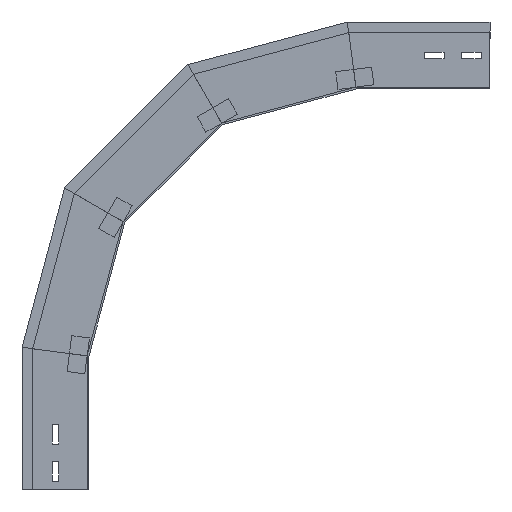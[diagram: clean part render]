
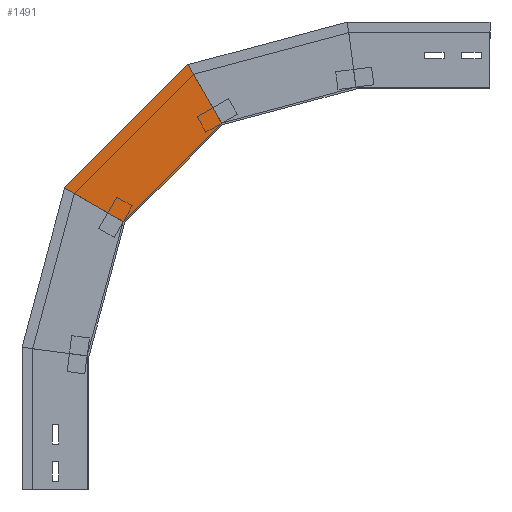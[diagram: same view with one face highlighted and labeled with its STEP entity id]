
A CAD part, left-side view. The second image highlights one B-rep face of the part: STEP entity #1491.
In plain terms, the highlighted planar face has unit normal (-1, 0, 0) as drawn and (1, 0, 0) by its records, which use the part's own axes.
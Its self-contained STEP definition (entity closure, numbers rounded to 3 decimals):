
#38 = CARTESIAN_POINT ( 'NONE',  ( 0., -77.316, 278.242 ) ) ;
#39 = DIRECTION ( 'NONE',  ( 0., -0.5, -0.866 ) ) ;
#52 = DIRECTION ( 'NONE',  ( 0., -0.707, 0.707 ) ) ;
#166 = CARTESIAN_POINT ( 'NONE',  ( 0., 28.618, 337.05 ) ) ;
#177 = FACE_OUTER_BOUND ( 'NONE', #308, .T. ) ;
#184 = CARTESIAN_POINT ( 'NONE',  ( 0., -172.651, 369.6 ) ) ;
#211 = LINE ( 'NONE', #38, #384 ) ;
#270 = EDGE_CURVE ( 'NONE', #1172, #663, #1496, .T. ) ;
#308 = EDGE_LOOP ( 'NONE', ( #788, #894, #601, #967 ) ) ;
#318 = DIRECTION ( 'NONE',  ( 0., -0.866, -0.5 ) ) ;
#330 = DIRECTION ( 'NONE',  ( 0., 0., -1. ) ) ;
#366 = VERTEX_POINT ( 'NONE', #1419 ) ;
#381 = CARTESIAN_POINT ( 'NONE',  ( 0., -110.896, 476.563 ) ) ;
#384 = VECTOR ( 'NONE', #318, 1000. ) ;
#470 = CARTESIAN_POINT ( 'NONE',  ( 0., -24.415, 284.017 ) ) ;
#601 = ORIENTED_EDGE ( 'NONE', *, *, #1564, .F. ) ;
#663 = VERTEX_POINT ( 'NONE', #1210 ) ;
#675 = EDGE_CURVE ( 'NONE', #366, #790, #211, .T. ) ;
#788 = ORIENTED_EDGE ( 'NONE', *, *, #1432, .T. ) ;
#790 = VERTEX_POINT ( 'NONE', #976 ) ;
#794 = VECTOR ( 'NONE', #1477, 1000. ) ;
#894 = ORIENTED_EDGE ( 'NONE', *, *, #270, .T. ) ;
#967 = ORIENTED_EDGE ( 'NONE', *, *, #675, .F. ) ;
#976 = CARTESIAN_POINT ( 'NONE',  ( 0., -40.117, 299.719 ) ) ;
#1051 = AXIS2_PLACEMENT_3D ( 'NONE', #470, #1645, #330 ) ;
#1172 = VERTEX_POINT ( 'NONE', #381 ) ;
#1210 = CARTESIAN_POINT ( 'NONE',  ( 0., -149.719, 409.32 ) ) ;
#1254 = CARTESIAN_POINT ( 'NONE',  ( 0., -24.415, 284.017 ) ) ;
#1330 = LINE ( 'NONE', #166, #794 ) ;
#1361 = VECTOR ( 'NONE', #52, 1000. ) ;
#1419 = CARTESIAN_POINT ( 'NONE',  ( 0., 27.126, 338.541 ) ) ;
#1432 = EDGE_CURVE ( 'NONE', #366, #1172, #1330, .T. ) ;
#1477 = DIRECTION ( 'NONE',  ( 0., -0.707, 0.707 ) ) ;
#1491 = ADVANCED_FACE ( 'NONE', ( #177 ), #1500, .T. ) ;
#1495 = VECTOR ( 'NONE', #39, 1000. ) ;
#1496 = LINE ( 'NONE', #184, #1495 ) ;
#1500 = PLANE ( 'NONE',  #1051 ) ;
#1564 = EDGE_CURVE ( 'NONE', #790, #663, #1840, .T. ) ;
#1645 = DIRECTION ( 'NONE',  ( 1., 0., 0. ) ) ;
#1840 = LINE ( 'NONE', #1254, #1361 ) ;
